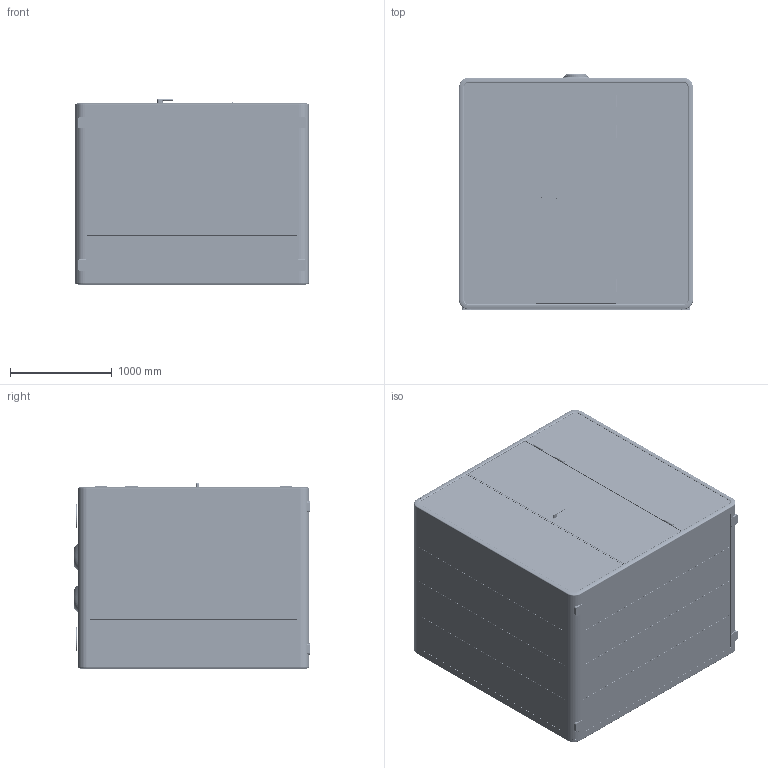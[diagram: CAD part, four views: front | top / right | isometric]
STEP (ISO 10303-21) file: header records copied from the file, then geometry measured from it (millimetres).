
FILE_DESCRIPTION (( 'STEP AP203' ), '1' );
FILE_NAME ('L-all.STEP', '2023-08-06T02:55:07', ( '微软用户' ), ( '微软中国' ), 'SwSTEP 2.0', 'SolidWorks 2018', '' );
FILE_SCHEMA (( 'CONFIG_CONTROL_DESIGN' ));
Length unit declared in the file: millimetre
Products named in the file (80): NT33TM-16A-09; 20200_ASM_2_ASM_1_ASM; 裔啣; DF3-D3蕾翐; ZSP_5_4_4; NT33TM-16A-04; L-meeting table; L-all; 遺殤奻爾輸; M3X6_GB_T818-2000; 202_ASM0001_ASM; NT33TM-16A-2; KJA遺殤; 遺殤蟀諉え; L-body; NT33TM-16A-01; Knob controller; Wireless charge; 爾諉え; D說醱賑輸ㄗ笢奪ㄘ; GB_CROSS_SCREWS_TYPE128 ST4.2X13 H C-S_GB_CROSS_SCREWS_TYPE128 ST4.2X13 H C-S; NT33TM-16A-06-03-3; DF3-D3蕾翐俋奪郪璃-495; nt33tm-16a-00_asm; DF3蕾翐俋奪階啣; 4-200001_1; NT33TM-16A-08; 2-SST_2_4; KJA衵遺殤ㄗ拸脣えㄘ; IR sensor; 39200_3; 镜向镜向标准款管口套40x20x1.8; DF3-D3蕾翐囀奪郪璃-470; 扥坫裝A; 250fan; NT33TM-16A-08-Z; 褐謫E; NT33TM-16A-07-04; ASM0002_ASM_1_ASM_11_ASM_7_ASM; NT33TM-16A-06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
Assembly tree (108 placements, depth 6):
  L-all
    L-body
    Knob controller
    socket
    Wireless charge
    1080lamp  x2
    Handle lock
      50100_ASM_2_ASM
        ASM0002_ASM_1_ASM_11_ASM_7_ASM
          ZSP_5_4_4
          2-SST_2_4
      YYD-YX-H_3_4
      4-200002_1
      39200_3
      202_ASM0001_ASM
        20200_ASM_ASM_1_ASM
          20200_ASM_2_ASM_1_ASM
            103000_2_1
            _6-27_3_1
            2020002_2_1
      俋參忒
        YYD-YX-Q_3_5
        4-200001_1
    Fan cover  x2
    IR sensor
    Vent  x8
    L-meeting table
    L伈楷_155  x2
    250fan  x2
    L汔蔥袤1.0
      KJA遺殤
        KJA酘遺殤ㄗ湍脣えㄘ
          遺殤眻奪
          遺殤蟀諉え
          噩砃遺殤眻奪
          遺殤奻爾輸
          爾諉え
        扥坫裝A  x2
        KJA衵遺殤ㄗ拸脣えㄘ
          遺殤眻奪
          遺殤蟀諉え
          噩砃遺殤眻奪
          遺殤奻爾輸
        耜啣A  x2
        梓袧遴奪諳杶40x20x1.8
        镜向标准款管口套40x20x1.8  x2
        镜向镜向标准款管口套40x20x1.8
      nt33tm-16a-00_asm
        NT33TM-16A-02
        NT33TM-16A-01
        NT33TM-16A-03
        NT33TM-16A-04
        NT33TM-16A-05
        NT33TM-16A-06
        NT33TM-16A-07
        NT33TM-16A-08  x2
        M3X6_GB_T818-2000  x4
        NT33TM-16A-M
        NT33TM-16A-1
        NT33TM-16A-2
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Bounding box: 2300 x 2326 x 1822.2 mm (x, y, z)
Volume: 1592008350 mm3; surface area: 121814048.1 mm2
Topology: 227 solids, 235 shells, 13484 faces, 34314 edges, 21479 vertices
Faces by surface type: plane 5843, cylinder 4573, torus 1588, bspline 880, cone 444, sphere 156
Entity records: 290091 total; most frequent: CARTESIAN_POINT 95016, ORIENTED_EDGE 38992, DIRECTION 38382, EDGE_CURVE 19498, AXIS2_PLACEMENT_3D 13302, VERTEX_POINT 12275, LINE 11778, VECTOR 11778
